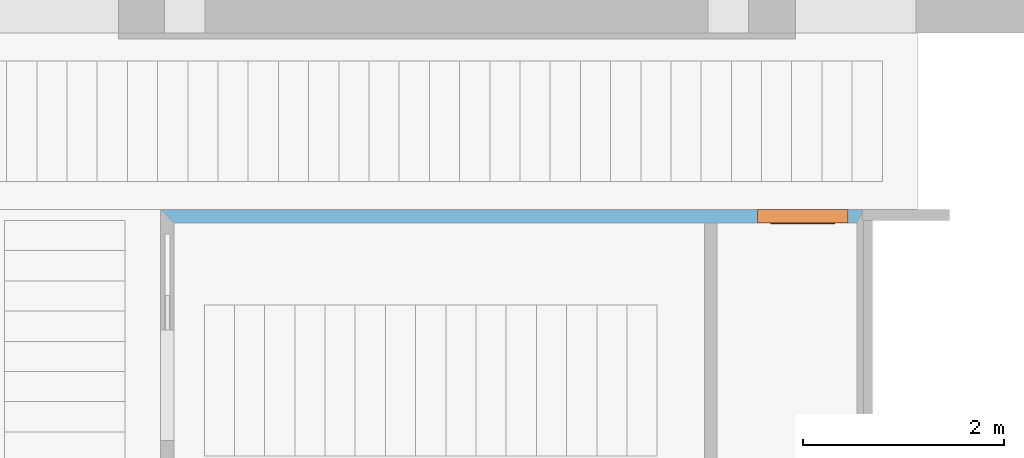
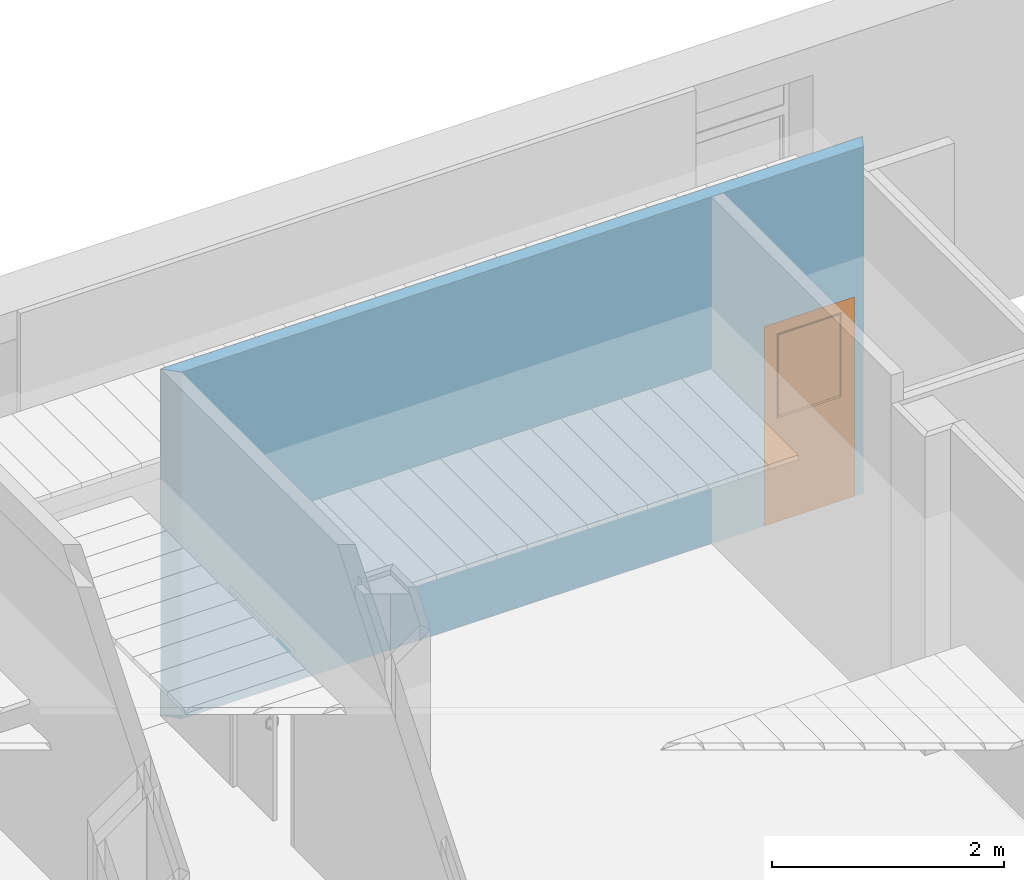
# One storey, part 55 of 60: 1 proxy, 1 opening, plus 1 element that does not belong to this part.
"""IFC2X3 building model written with IfcOpenShell, lengths in millimetres."""

from ifc_helpers import new_model, entity, si_unit, converted_unit, derived_unit, money_unit, direction, frame, origin_with_axes, origin_2d_with_axis, place, context, subcontext, project, spatial, polyline, rectangle, outline, extrude, faceted_brep, material, layer, layer_set, layer_usage, type_object, element, fill, save


model = new_model("IFC2X3")

# Units and contexts
model_context = context("Model", 3, precision=0.01, world=origin_with_axes(), true_north=direction((0.0, 1.0)))
body_context = subcontext(model_context, "Body", "Model", "MODEL_VIEW")
ifc_project = project(units=[si_unit("LENGTHUNIT", "METRE", prefix="MILLI"), si_unit("AREAUNIT", "SQUARE_METRE"), si_unit("VOLUMEUNIT", "CUBIC_METRE"), converted_unit("PLANEANGLEUNIT", "DEGREE", entity("IfcPlaneAngleMeasure", 0.0174532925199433), si_unit("PLANEANGLEUNIT", "RADIAN"), dimensions=[0, 0, 0, 0, 0, 0, 0]), money_unit("USD"), converted_unit("TIMEUNIT", "Year", entity("IfcTimeMeasure", 31557600.0), si_unit("TIMEUNIT", "SECOND"), dimensions=[0, 0, 1, 0, 0, 0, 0]), si_unit("MASSUNIT", "GRAM", prefix="KILO"), si_unit("THERMODYNAMICTEMPERATUREUNIT", "DEGREE_CELSIUS"), si_unit("LUMINOUSINTENSITYUNIT", "LUMEN"), si_unit("ENERGYUNIT", "JOULE", prefix="MEGA"), derived_unit("THERMALCONDUCTANCEUNIT", [(si_unit("POWERUNIT", "WATT"), 1), (si_unit("LENGTHUNIT", "METRE"), -1), (si_unit("THERMODYNAMICTEMPERATUREUNIT", "KELVIN"), -1)]), derived_unit("SPECIFICHEATCAPACITYUNIT", [(si_unit("ENERGYUNIT", "JOULE"), 1), (si_unit("MASSUNIT", "GRAM", prefix="KILO"), -1), (si_unit("THERMODYNAMICTEMPERATUREUNIT", "KELVIN"), -1)]), derived_unit("MASSDENSITYUNIT", [(si_unit("MASSUNIT", "GRAM", prefix="KILO"), 1), (si_unit("VOLUMEUNIT", "CUBIC_METRE"), -1)])], contexts=[model_context])

# Site, building, storey
site_placement = place(None, origin_with_axes())
site = spatial("IfcSite", under=ifc_project, at=site_placement, Name="Sitio", CompositionType="ELEMENT")
building_placement = place(site_placement, origin_with_axes())
building = spatial("IfcBuilding", under=site, at=building_placement, Name="Construcción", CompositionType="ELEMENT")
storey_placement = place(building_placement, frame((0.0, 0.0, 3650.0), z_axis=(0.0, 0.0, 1.0), x_axis=(1.0, 0.0, 0.0)))
storey = spatial("IfcBuildingStorey", under=building, at=storey_placement, Name="PLANTA 2ª", CompositionType="ELEMENT", Elevation=3650.0)

# Wall, opening, proxy
ifc_material_1 = material(Name="Panel de Yeso Laminado")
ifc_layer_1 = layer(ifc_material_1, 13.0, ventilated="UNKNOWN")
ifc_layer_2 = layer(ifc_material_1, 13.0, ventilated="UNKNOWN")
ifc_material_2 = material(Name="ARQ_AI033_Aillament_Llana_De_Roca")
ifc_layer_3 = layer(ifc_material_2, 70.0, ventilated="UNKNOWN")
ifc_layer_4 = layer(ifc_material_1, 13.0, ventilated="UNKNOWN")
ifc_layer_5 = layer(ifc_material_1, 13.0, ventilated="UNKNOWN")
ifc_material_3 = material(Name="ARQ_EN271_Camara_Aire")
ifc_layer_6 = layer(ifc_material_3, 6.0, ventilated="UNKNOWN")
ifc_material_4 = material(Name="ARQ_FU093_Panellat_HPL")
ifc_layer_7 = layer(ifc_material_4, 6.0, ventilated="UNKNOWN")
ifc_layer_set = layer_set([ifc_layer_1, ifc_layer_2, ifc_layer_3, ifc_layer_4, ifc_layer_5, ifc_layer_6, ifc_layer_7], Name="CR Pladur 70 HPL 1 cara")
ifc_layer_usage = layer_usage(ifc_layer_set, "AXIS2", "POSITIVE", -134.0)
wall_type = type_object("IfcWallType", Name="CR Pladur 70 HPL 1 cara 134", PredefinedType="NOTDEFINED")
wall_placement = place(storey_placement, frame((358.8909950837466, 2109.554870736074, 0.0), z_axis=(0.0, 0.0, 1.0), x_axis=(1.0, 0.0, 0.0)))
wall = element("IfcWallStandardCase", 1, at=wall_placement, inside=storey, type_object=wall_type, material=ifc_layer_usage, Name="MS-212", context=body_context, shape_type="SweptSolid", body=[
    extrude(outline(polyline([(134.0000000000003, -133.9999999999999), (6917.214859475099, -133.9999999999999), (6983.2148594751, 0.0), (0.0, 0.0), (134.0000000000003, -133.9999999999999)])), origin_with_axes(), (0.0, 0.0, 1.0), 3650.0),
])
opening_placement = place(wall_placement, frame((6378.420332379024, 0.0, 0.0), z_axis=(0.0, 0.0, 1.0), x_axis=(1.0, 0.0, 0.0)))
opening = element("IfcOpeningElement", 2, at=opening_placement, cuts=wall, Name="P-02", context=body_context, shape_type="SweptSolid", body=[
    extrude(rectangle(XDim=900.0000000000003, YDim=2100.0, at=origin_2d_with_axis()), frame((0.0, -133.9999999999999, 1050.0), z_axis=(0.0, -1.0, 0.0), x_axis=(1.0, 0.0, 0.0)), (0.0, 0.0, -1.0), 402.0),
])
building_element_proxy_type = type_object("IfcBuildingElementProxyType", Name="Puerta Metal 27", PredefinedType="NOTDEFINED")
proxy_placement = place(opening_placement, frame((450.0000000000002, 0.0, 0.0), z_axis=(0.0, 0.0, 1.0), x_axis=(-1.0, 0.0, 0.0)))
proxy = element("IfcBuildingElementProxy", 3, at=proxy_placement, inside=storey, type_object=building_element_proxy_type, Name="P-02", context=body_context, shape_type="Brep", body=[
    faceted_brep([(868.0000000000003, 93.99999999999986, 0.0), (868.0000000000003, 0.0, 0.0), (868.0000000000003, 0.0, 2068.0), (868.0000000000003, 93.99999999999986, 2068.0), (879.9999999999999, 93.99999999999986, 0.0), (879.9999999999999, 133.9999999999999, 0.0), (900.0000000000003, 133.9999999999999, 0.0), (900.0000000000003, 0.0, 0.0), (900.0000000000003, 0.0, 2068.0), (879.9999999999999, 93.99999999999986, 2068.0), (900.0000000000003, 133.9999999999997, 2068.0), (879.9999999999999, 133.9999999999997, 2068.0)], [[[0, 1, 2, 3]], [[4, 5, 6, 7, 1, 0]], [[1, 7, 8, 2]], [[9, 3, 2, 8, 10, 11]], [[9, 4, 0, 3]], [[11, 5, 4, 9]], [[11, 10, 6, 5]], [[6, 10, 8, 7]]]),
    faceted_brep([(20.00000000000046, 93.99999999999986, 2068.0), (20.00000000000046, 133.9999999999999, 2068.0), (0.0, 133.9999999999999, 2068.0), (0.0, 0.0, 2068.0), (32.00000000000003, 0.0, 2068.0), (32.00000000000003, 93.99999999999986, 2068.0), (20.00000000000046, 93.99999999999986, 0.0), (20.00000000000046, 133.9999999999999, 0.0), (0.0, 133.9999999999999, 0.0), (0.0, 0.0, 0.0), (32.00000000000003, 0.0, 0.0), (32.00000000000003, 93.99999999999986, 0.0)], [[[0, 1, 2, 3, 4, 5]], [[0, 6, 7, 1]], [[7, 8, 2, 1]], [[2, 8, 9, 3]], [[3, 9, 10, 4]], [[5, 4, 10, 11]], [[5, 11, 6, 0]], [[6, 11, 10, 9, 8, 7]]]),
    faceted_brep([(879.9999999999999, 133.9999999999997, 2080.0), (20.00000000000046, 133.9999999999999, 2080.0), (20.00000000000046, 133.9999999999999, 2068.0), (0.0, 133.9999999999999, 2068.0), (0.0, 133.9999999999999, 2100.0), (900.0000000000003, 133.9999999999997, 2100.0), (900.0000000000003, 133.9999999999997, 2068.0), (879.9999999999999, 133.9999999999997, 2068.0), (879.9999999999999, 93.99999999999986, 2080.0), (20.00000000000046, 93.99999999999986, 2080.0), (20.00000000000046, 93.99999999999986, 2068.0), (32.00000000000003, 93.99999999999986, 2068.0), (32.00000000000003, 0.0, 2068.0), (0.0, 0.0, 2068.0), (0.0, 0.0, 2100.0), (900.0000000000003, 0.0, 2100.0), (900.0000000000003, 0.0, 2068.0), (879.9999999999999, 93.99999999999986, 2068.0), (868.0000000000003, 0.0, 2068.0), (868.0000000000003, 93.99999999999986, 2068.0)], [[[0, 1, 2, 3, 4, 5, 6, 7]], [[0, 8, 9, 1]], [[1, 9, 10, 2]], [[10, 11, 12, 13, 3, 2]], [[4, 3, 13, 14]], [[5, 4, 14, 15]], [[6, 5, 15, 16]], [[17, 7, 6, 16, 18, 19]], [[7, 17, 8, 0]], [[10, 9, 8, 17, 19, 11]], [[19, 18, 12, 11]], [[12, 18, 16, 15, 14, 13]]]),
    faceted_brep([(879.9999999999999, 133.9999999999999, 0.0), (879.9999999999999, 93.99999999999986, 0.0), (20.00000000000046, 93.99999999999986, 0.0), (20.00000000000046, 133.9999999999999, 0.0), (879.9999999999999, 133.9999999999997, 2080.0), (879.9999999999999, 93.99999999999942, 2080.0), (20.00000000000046, 93.99999999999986, 2080.0), (759.9999999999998, 93.99999999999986, 1100.0), (137.9999999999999, 93.99999999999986, 1100.0), (137.9999999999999, 93.99999999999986, 1970.0), (759.9999999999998, 93.99999999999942, 1970.0), (20.00000000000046, 133.9999999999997, 2080.0), (759.9999999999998, 133.9999999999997, 1100.0), (759.9999999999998, 133.9999999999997, 1970.0), (137.9999999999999, 133.9999999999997, 1970.0), (137.9999999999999, 133.9999999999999, 1100.0)], [[[0, 1, 2, 3]], [[4, 5, 1, 0]], [[1, 5, 6, 2], [7, 8, 9, 10]], [[3, 2, 6, 11]], [[0, 3, 11, 4], [12, 13, 14, 15]], [[11, 6, 5, 4]], [[15, 8, 7, 12]], [[14, 9, 8, 15]], [[13, 10, 9, 14]], [[12, 7, 10, 13]]]),
    faceted_brep([(759.9999999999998, 119.9999999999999, 1100.0), (759.9999999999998, 107.9999999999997, 1100.0), (137.9999999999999, 107.9999999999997, 1100.0), (137.9999999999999, 119.9999999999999, 1100.0), (759.9999999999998, 119.9999999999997, 1970.0), (759.9999999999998, 107.9999999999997, 1970.0), (137.9999999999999, 107.9999999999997, 1970.0), (137.9999999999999, 119.9999999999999, 1970.0)], [[[0, 1, 2, 3]], [[4, 5, 1, 0]], [[1, 5, 6, 2]], [[3, 2, 6, 7]], [[0, 3, 7, 4]], [[7, 6, 5, 4]]]),
    faceted_brep([(770.0000000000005, 143.9999999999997, 1090.0), (770.0000000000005, 133.9999999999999, 1090.0), (128.0000000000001, 133.9999999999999, 1090.0), (128.0000000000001, 143.9999999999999, 1090.0), (770.0000000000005, 143.9999999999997, 1980.0), (770.0000000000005, 133.9999999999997, 1980.0), (128.0000000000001, 133.9999999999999, 1980.0), (759.9999999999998, 133.9999999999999, 1100.0), (137.9999999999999, 133.9999999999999, 1100.0), (137.9999999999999, 133.9999999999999, 1970.0), (759.9999999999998, 133.9999999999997, 1970.0), (128.0000000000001, 143.9999999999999, 1980.0), (759.9999999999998, 143.9999999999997, 1100.0), (759.9999999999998, 143.9999999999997, 1970.0), (137.9999999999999, 143.9999999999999, 1970.0), (137.9999999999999, 143.9999999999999, 1100.0)], [[[0, 1, 2, 3]], [[4, 5, 1, 0]], [[1, 5, 6, 2], [7, 8, 9, 10]], [[3, 2, 6, 11]], [[0, 3, 11, 4], [12, 13, 14, 15]], [[11, 6, 5, 4]], [[15, 8, 7, 12]], [[14, 9, 8, 15]], [[13, 10, 9, 14]], [[12, 7, 10, 13]]]),
    faceted_brep([(770.0000000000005, 93.99999999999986, 1090.0), (770.0000000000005, 83.99999999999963, 1090.0), (128.0000000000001, 84.00000000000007, 1090.0), (128.0000000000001, 93.99999999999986, 1090.0), (770.0000000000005, 93.99999999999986, 1980.0), (770.0000000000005, 83.99999999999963, 1980.0), (128.0000000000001, 83.99999999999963, 1980.0), (759.9999999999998, 83.99999999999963, 1100.0), (137.9999999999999, 84.00000000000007, 1100.0), (137.9999999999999, 83.99999999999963, 1970.0), (759.9999999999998, 83.99999999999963, 1970.0), (128.0000000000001, 93.99999999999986, 1980.0), (759.9999999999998, 93.99999999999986, 1100.0), (759.9999999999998, 93.99999999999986, 1970.0), (137.9999999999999, 93.99999999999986, 1970.0), (137.9999999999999, 93.99999999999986, 1100.0)], [[[0, 1, 2, 3]], [[4, 5, 1, 0]], [[1, 5, 6, 2], [7, 8, 9, 10]], [[3, 2, 6, 11]], [[0, 3, 11, 4], [12, 13, 14, 15]], [[11, 6, 5, 4]], [[15, 8, 7, 12]], [[14, 9, 8, 15]], [[13, 10, 9, 14]], [[12, 7, 10, 13]]]),
])
fill(opening, proxy)

save(model, "model.ifc")
